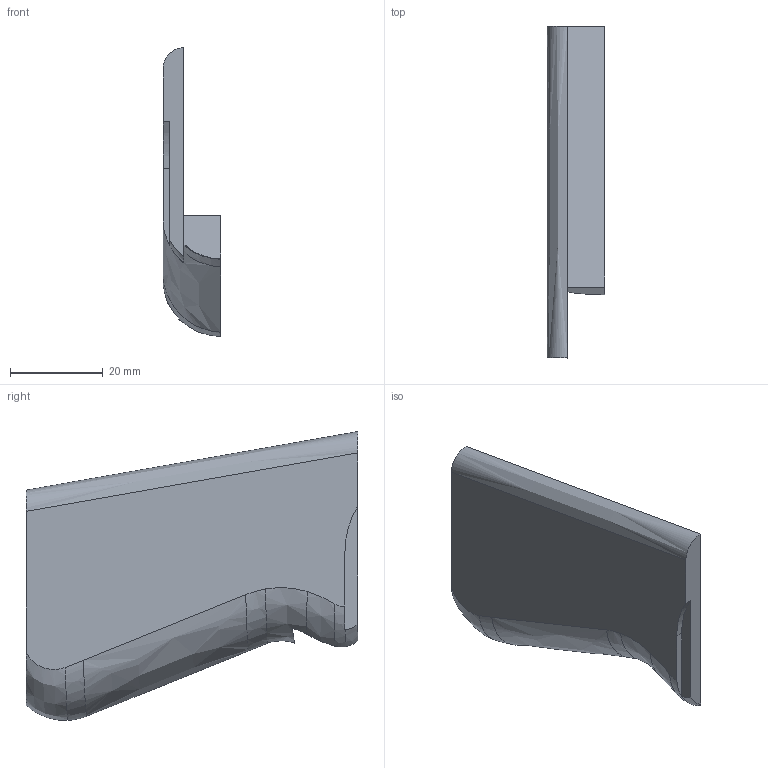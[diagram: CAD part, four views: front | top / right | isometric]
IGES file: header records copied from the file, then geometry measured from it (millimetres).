
Start section:  PTC IGES file: C:\Documents and Settings\audibk\personal\guns\walther\W alther_PPK\iges\griffschalel.igs
Global section: file name: C:\Documents and Settings\audibk\personal\guns\walther\Walther_PPK\iges\griffschalel.igs; native system: Pro/ENGINEER by Parametric Technology Corporation; preprocessor: 2002180; author: audibk; organization: Unknown; date: 030409.105324; units: millimetre
Bounding box: 12.5 x 71.5 x 62.23 mm (x, y, z)
Volume: 18402.1 mm3; surface area: 8264.4 mm2
Topology: 1 solids, 1 shells, 19 faces, 51 edges, 34 vertices
Faces by surface type: bspline 19
